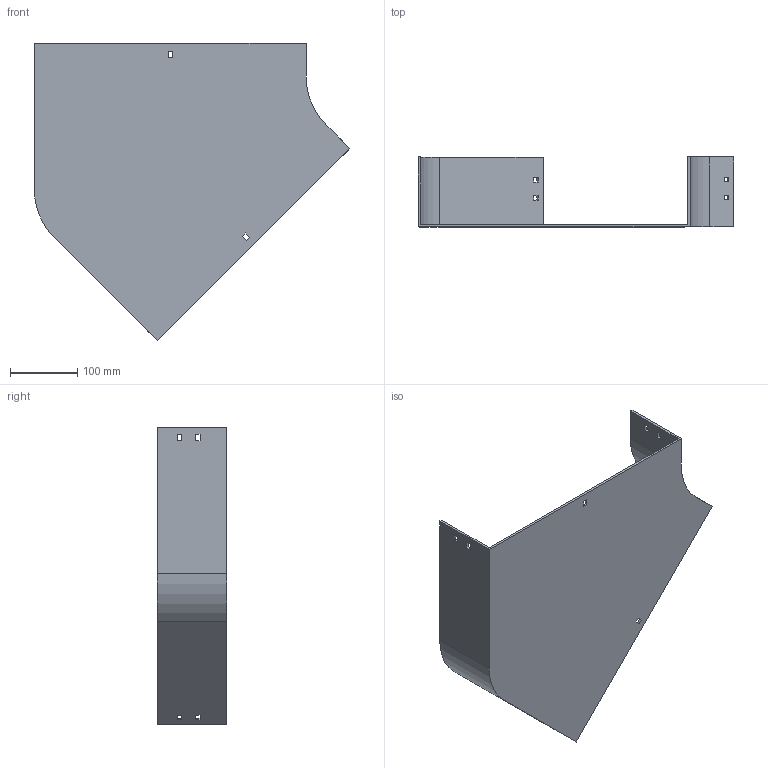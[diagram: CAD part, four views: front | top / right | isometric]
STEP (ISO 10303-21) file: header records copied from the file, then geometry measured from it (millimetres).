
FILE_DESCRIPTION (( 'STEP AP214' ), '1' );
FILE_NAME ('11B1D400.step', '2025-02-21T09:36:47', ( '' ), ( '' ), 'SwSTEP 2.0', 'SolidWorks 2023', '' );
FILE_SCHEMA (( 'AUTOMOTIVE_DESIGN' ));
Length unit declared in the file: millimetre
Products named in the file (1): 11B1D400
Bounding box: 468.64 x 104 x 441.74 mm (x, y, z)
Volume: 736120.1 mm3; surface area: 428465.3 mm2
Topology: 1 solids, 1 shells, 58 faces, 168 edges, 112 vertices
Faces by surface type: plane 54, cylinder 4
Entity records: 1943 total; most frequent: CARTESIAN_POINT 339, ORIENTED_EDGE 336, DIRECTION 294, EDGE_CURVE 168, LINE 160, VECTOR 160, VERTEX_POINT 112, EDGE_LOOP 78
